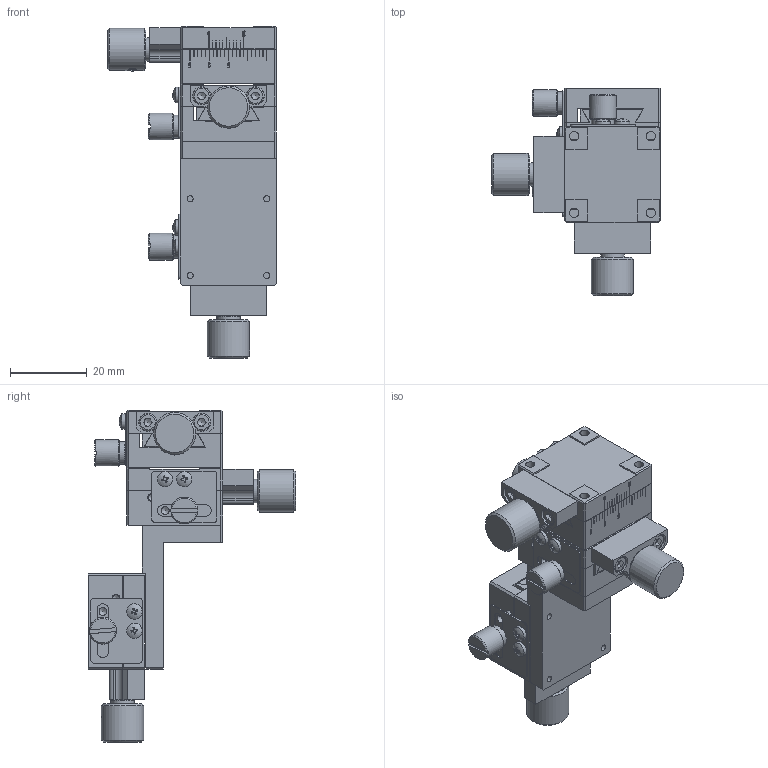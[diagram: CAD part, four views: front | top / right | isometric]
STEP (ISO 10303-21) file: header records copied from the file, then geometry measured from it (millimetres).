
FILE_DESCRIPTION (( 'STEP AP203' ), '1' );
FILE_NAME ('BFD25.STEP', '2024-07-31T02:33:52', ( 'Windows User' ), ( 'P R C' ), 'SwSTEP 2.0', 'SolidWorks 2024', '' );
FILE_SCHEMA (( 'CONFIG_CONTROL_DESIGN' ));
Products named in the file (1): BFD25
Bounding box: 44 x 54 x 86.5 mm (x, y, z)
Volume: 36532.7 mm3; surface area: 32518.3 mm2
Topology: 42 solids, 42 shells, 1915 faces, 4944 edges, 3212 vertices
Faces by surface type: plane 1260, cylinder 271, bspline 207, cone 165, sphere 6, torus 6
Full cylindrical faces by diameter (mm): 1.6 x34, 2 x6, 2.05 x21, 2.1 x3, 2.4 x16, 2.5 x21, 2.9 x9, 3 x5, 4 x27, 4.1 x3, 4.2 x6, 4.4 x3, 4.5 x9, 4.7 x6, 6 x6, 6.094 x3, 6.9 x3, 7 x3, 7.5 x3, 11 x3
Entity records: 75098 total; most frequent: CARTESIAN_POINT 32717, ORIENTED_EDGE 8922, DIRECTION 7525, EDGE_CURVE 4461, VERTEX_POINT 3075, VECTOR 2637, LINE 2637, EDGE_LOOP 2484
